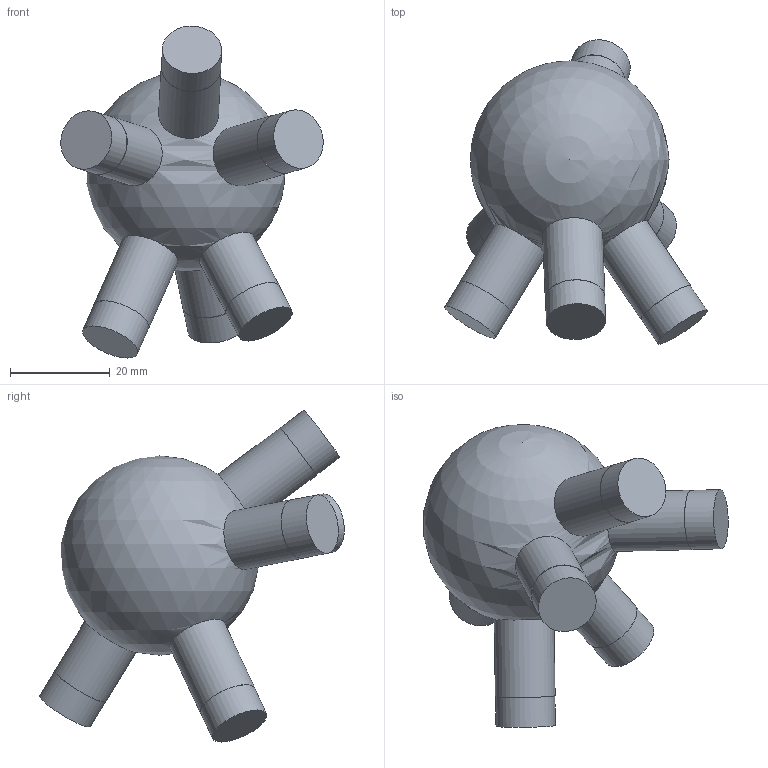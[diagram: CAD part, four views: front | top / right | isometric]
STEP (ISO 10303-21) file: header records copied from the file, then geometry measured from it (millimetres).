
FILE_DESCRIPTION(('Open CASCADE Model'),'2;1');
FILE_NAME('Open CASCADE Shape Model','2026-10-21T12:47:57',('Author'),( 'Open CASCADE'),'Open CASCADE STEP processor 7.9','Open CASCADE 7.9' ,'Unknown');
FILE_SCHEMA(('AUTOMOTIVE_DESIGN { 1 0 10303 214 1 1 1 1 }'));
Length unit declared in the file: millimetre
Products named in the file (1): Open CASCADE STEP translator 7.9 35
Bounding box: 52.62 x 61.12 x 66.63 mm (x, y, z)
Volume: 46825.1 mm3; surface area: 9565 mm2
Topology: 1 solids, 1 shells, 25 faces, 39 edges, 26 vertices
Faces by surface type: cylinder 12, plane 12, sphere 1
Full cylindrical faces by diameter (mm): 11.9 x6, 12 x6
Entity records: 1429 total; most frequent: CARTESIAN_POINT 564, DIRECTION 178, ORIENTED_EDGE 72, PCURVE 72, DEFINITIONAL_REPRESENTATION 72, LINE 60, VECTOR 60, AXIS2_PLACEMENT_3D 50
